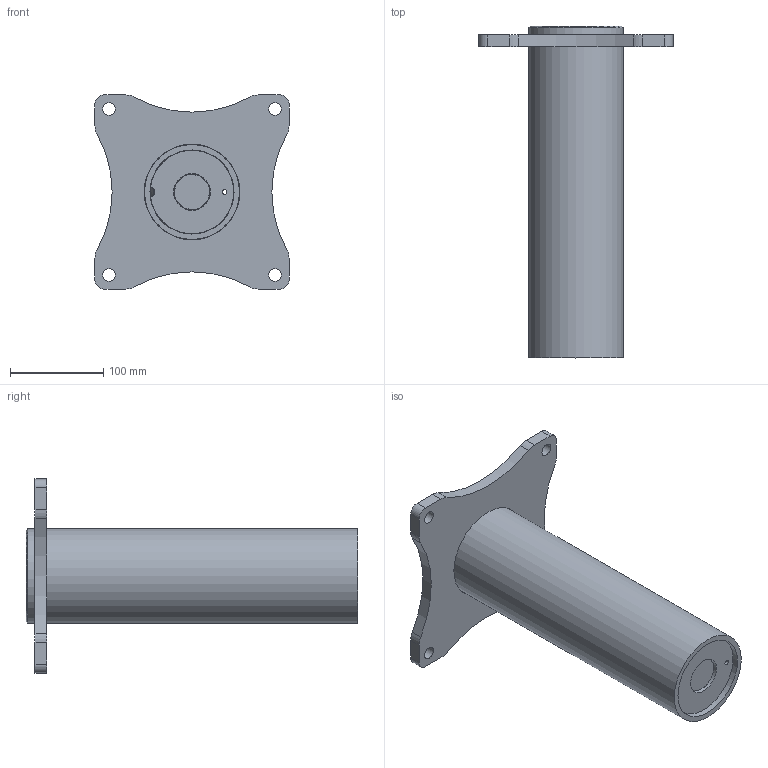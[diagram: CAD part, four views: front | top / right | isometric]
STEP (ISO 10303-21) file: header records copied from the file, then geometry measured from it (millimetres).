
FILE_DESCRIPTION (( 'STEP AP214' ), '1' );
FILE_NAME ('OZSOC3.STEP', '2025-04-01T13:55:40', ( '' ), ( '' ), 'SwSTEP 2.0', 'SolidWorks 2023', '' );
FILE_SCHEMA (( 'AUTOMOTIVE_DESIGN' ));
Length unit declared in the file: inch
Products named in the file (7): 301-0140; 300-0200; OZSOC3; 302-0200; SXB7005; 302-0300; 301-0040
Assembly tree (6 placements, depth 3):
  OZSOC3
    301-0040
      300-0200
      301-0140
      302-0200
      302-0300
    SXB7005
Bounding box: 207.96 x 355.6 x 207.96 mm (x, y, z)
Volume: 1176828.9 mm3; surface area: 353117.6 mm2
Topology: 5 solids, 5 shells, 64 faces, 148 edges, 96 vertices
Faces by surface type: cylinder 33, plane 23, cone 7, torus 1
Full cylindrical faces by diameter (mm): 5.08 x1, 13.487 x4, 38.1 x1, 39.37 x1, 63.5 x1, 77.47 x1, 89.256 x1, 90.119 x1, 101.6 x2, 102.616 x1
Entity records: 2027 total; most frequent: CARTESIAN_POINT 349, DIRECTION 338, ORIENTED_EDGE 250, AXIS2_PLACEMENT_3D 145, EDGE_CURVE 125, EDGE_LOOP 103, VERTEX_POINT 94, FACE_OUTER_BOUND 77
